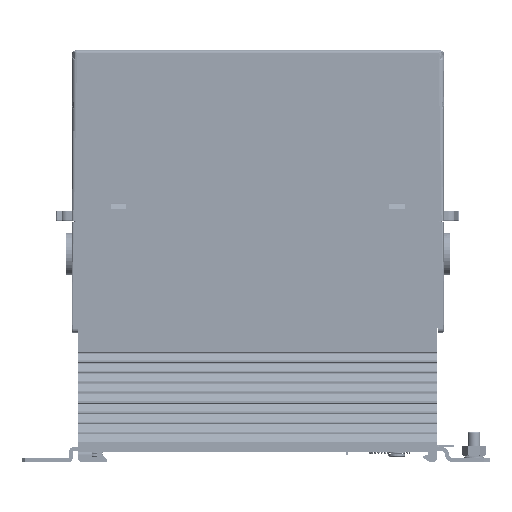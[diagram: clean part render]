
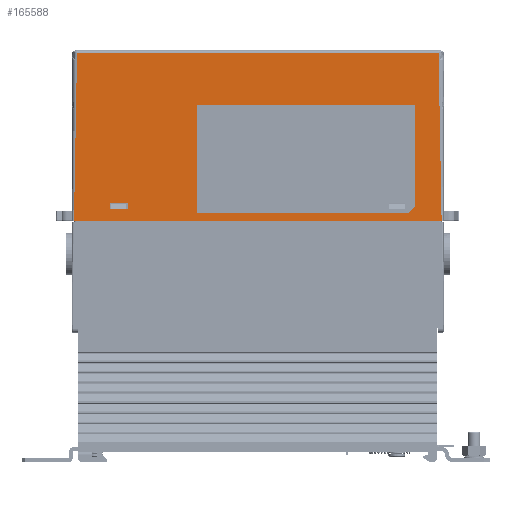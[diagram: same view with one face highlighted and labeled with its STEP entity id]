
A CAD part, left-side view. The second image highlights one B-rep face of the part: STEP entity #165588.
In plain terms, the highlighted planar face has unit normal (-1, 0, 0).
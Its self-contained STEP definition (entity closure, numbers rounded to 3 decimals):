
#100854=DIRECTION('',(0.,-1.,0.));
#100855=VECTOR('',#100854,180.1);
#100856=CARTESIAN_POINT('',(-40.,90.05,-42.05));
#100857=LINE('',#100856,#100855);
#112143=DIRECTION('',(0.,0.018,-1.));
#112144=VECTOR('',#112143,82.743);
#112145=CARTESIAN_POINT('',(-40.,88.525,
40.679));
#112146=LINE('',#112145,#112144);
#112260=DIRECTION('',(0.,-1.,0.));
#112261=VECTOR('',#112260,177.051);
#112262=CARTESIAN_POINT('',(-40.,88.525,
40.679));
#112263=LINE('',#112262,#112261);
#112264=DIRECTION('',(0.,1.,0.));
#112265=VECTOR('',#112264,103.8);
#112266=CARTESIAN_POINT('',(-40.,-73.8,-38.05));
#112267=LINE('',#112266,#112265);
#112268=DIRECTION('',(0.,0.,-1.));
#112269=VECTOR('',#112268,49.8);
#112270=CARTESIAN_POINT('',(-40.,-77.,14.95));
#112271=LINE('',#112270,#112269);
#112272=DIRECTION('',(0.,-1.,0.));
#112273=VECTOR('',#112272,107.);
#112274=CARTESIAN_POINT('',(-40.,30.,14.95));
#112275=LINE('',#112274,#112273);
#112276=DIRECTION('',(0.,0.,1.));
#112277=VECTOR('',#112276,53.);
#112278=CARTESIAN_POINT('',(-40.,30.,-38.05));
#112279=LINE('',#112278,#112277);
#112280=DIRECTION('',(0.,1.,0.));
#112281=VECTOR('',#112280,9.);
#112282=CARTESIAN_POINT('',(-40.,63.35,-33.05));
#112283=LINE('',#112282,#112281);
#112284=DIRECTION('',(0.,0.,-1.));
#112285=VECTOR('',#112284,3.);
#112286=CARTESIAN_POINT('',(-40.,72.35,-33.05));
#112287=LINE('',#112286,#112285);
#112288=DIRECTION('',(0.,-1.,0.));
#112289=VECTOR('',#112288,9.);
#112290=CARTESIAN_POINT('',(-40.,72.35,-36.05));
#112291=LINE('',#112290,#112289);
#112292=DIRECTION('',(0.,0.,1.));
#112293=VECTOR('',#112292,3.);
#112294=CARTESIAN_POINT('',(-40.,63.35,-36.05));
#112295=LINE('',#112294,#112293);
#113192=DIRECTION('',(0.,0.707,-0.707));
#113193=VECTOR('',#113192,4.525);
#113194=CARTESIAN_POINT('',(-40.,-77.,-34.85));
#113195=LINE('',#113194,#113193);
#113261=DIRECTION('',(0.,0.018,1.));
#113262=VECTOR('',#113261,82.743);
#113263=CARTESIAN_POINT('',(-40.,-90.05,-42.05));
#113264=LINE('',#113263,#113262);
#113265=CARTESIAN_POINT('',(-40.,-88.525,
40.679));
#131143=CARTESIAN_POINT('',(-40.,90.05,-42.05));
#131144=CARTESIAN_POINT('',(-40.,-90.05,-42.05));
#131145=VERTEX_POINT('',#131143);
#131146=VERTEX_POINT('',#131144);
#131212=VERTEX_POINT('',#113265);
#131213=CARTESIAN_POINT('',(-40.,88.525,
40.679));
#131214=VERTEX_POINT('',#131213);
#133212=CARTESIAN_POINT('',(-40.,30.,-38.05));
#133213=VERTEX_POINT('',#133212);
#133214=CARTESIAN_POINT('',(-40.,30.,14.95));
#133215=VERTEX_POINT('',#133214);
#133216=CARTESIAN_POINT('',(-40.,-77.,14.95));
#133217=VERTEX_POINT('',#133216);
#133219=CARTESIAN_POINT('',(-40.,-73.8,-38.05));
#133221=VERTEX_POINT('',#133219);
#133224=CARTESIAN_POINT('',(-40.,-77.,-34.85));
#133225=VERTEX_POINT('',#133224);
#133496=CARTESIAN_POINT('',(-40.,63.35,-33.05));
#133497=CARTESIAN_POINT('',(-40.,72.35,-33.05));
#133498=VERTEX_POINT('',#133496);
#133499=VERTEX_POINT('',#133497);
#133500=CARTESIAN_POINT('',(-40.,72.35,-36.05));
#133501=VERTEX_POINT('',#133500);
#133502=CARTESIAN_POINT('',(-40.,63.35,-36.05));
#133503=VERTEX_POINT('',#133502);
#165556=CARTESIAN_POINT('',(-40.,91.,-42.05));
#165557=DIRECTION('',(-1.,0.,0.));
#165558=DIRECTION('',(0.,-1.,0.));
#165559=AXIS2_PLACEMENT_3D('',#165556,#165557,#165558);
#165560=PLANE('',#165559);
#165562=ORIENTED_EDGE('',*,*,#165561,.T.);
#165564=ORIENTED_EDGE('',*,*,#165563,.F.);
#165565=ORIENTED_EDGE('',*,*,#149189,.F.);
#165566=ORIENTED_EDGE('',*,*,#165403,.F.);
#165567=EDGE_LOOP('',(#165562,#165564,#165565,#165566));
#165568=FACE_OUTER_BOUND('',#165567,.F.);
#165570=ORIENTED_EDGE('',*,*,#165569,.F.);
#165572=ORIENTED_EDGE('',*,*,#165571,.F.);
#165574=ORIENTED_EDGE('',*,*,#165573,.F.);
#165576=ORIENTED_EDGE('',*,*,#165575,.F.);
#165578=ORIENTED_EDGE('',*,*,#165577,.F.);
#165579=EDGE_LOOP('',(#165570,#165572,#165574,#165576,#165578));
#165580=FACE_BOUND('',#165579,.F.);
#165581=ORIENTED_EDGE('',*,*,#165544,.T.);
#165582=ORIENTED_EDGE('',*,*,#165500,.T.);
#165583=ORIENTED_EDGE('',*,*,#144666,.T.);
#165585=ORIENTED_EDGE('',*,*,#165584,.T.);
#165586=EDGE_LOOP('',(#165581,#165582,#165583,#165585));
#165587=FACE_BOUND('',#165586,.F.);
#144666=EDGE_CURVE('',#133501,#133503,#112291,.T.);
#149189=EDGE_CURVE('',#131145,#131146,#100857,.T.);
#165403=EDGE_CURVE('',#131214,#131145,#112146,.T.);
#165500=EDGE_CURVE('',#133499,#133501,#112287,.T.);
#165544=EDGE_CURVE('',#133498,#133499,#112283,.T.);
#165561=EDGE_CURVE('',#131214,#131212,#112263,.T.);
#165563=EDGE_CURVE('',#131146,#131212,#113264,.T.);
#165569=EDGE_CURVE('',#133221,#133213,#112267,.T.);
#165571=EDGE_CURVE('',#133225,#133221,#113195,.T.);
#165573=EDGE_CURVE('',#133217,#133225,#112271,.T.);
#165575=EDGE_CURVE('',#133215,#133217,#112275,.T.);
#165577=EDGE_CURVE('',#133213,#133215,#112279,.T.);
#165584=EDGE_CURVE('',#133503,#133498,#112295,.T.);
#165588=ADVANCED_FACE('',(#165568,#165580,#165587),#165560,.T.);
